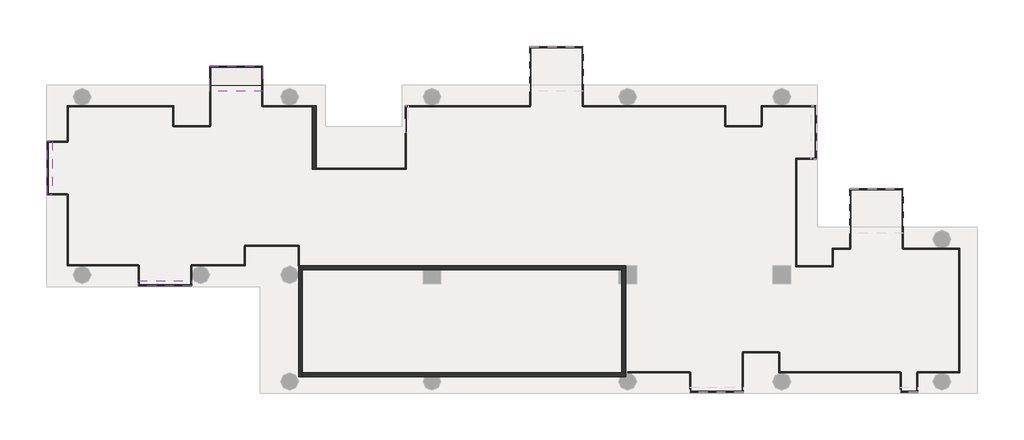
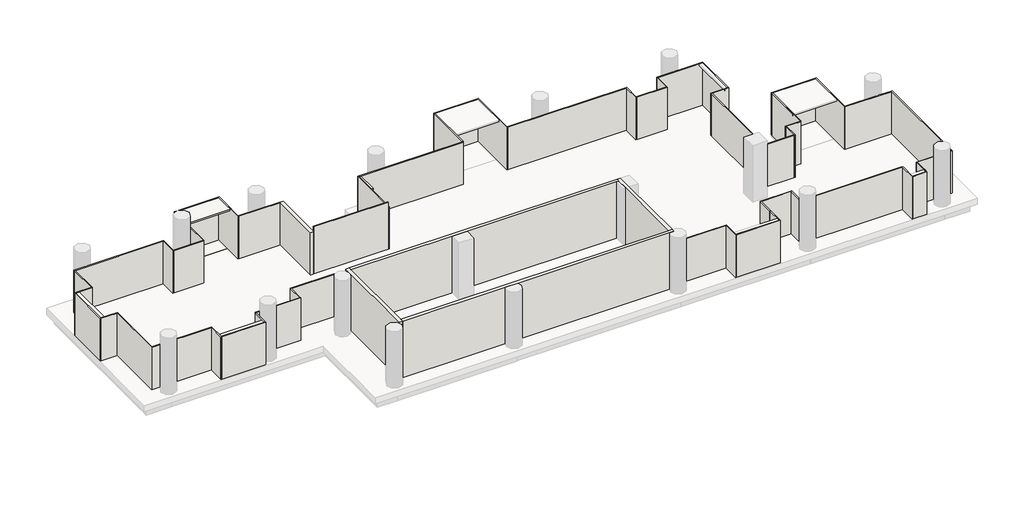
# One storey, part 1 of 2: 59 walls, 8 slabs.
"""IFC4 building model written with IfcOpenShell, lengths in millimetres."""

from ifc_helpers import new_model, si_unit, frame, origin, place, context, project, spatial, polyline, outline, extrude, faceted_brep, element, save

model = new_model("IFC4")

# Units and contexts
model_context = context("Model", 3, world=origin())
ifc_project = project(units=[si_unit("LENGTHUNIT", "METRE", prefix="MILLI")], contexts=[model_context])

# Site, building, storey
site = spatial("IfcSite", under=ifc_project)
building = spatial("IfcBuilding", under=site)
storey = spatial("IfcBuildingStorey", under=building, Name="TW-L 15", Elevation=53199.9999686)

# Slabs
placement = place(None, origin())
element("IfcSlab", 1, ObjectType="AJN-ARC-SLAB-10cm", at=placement, inside=storey, context=model_context, shape_type="SweptSolid", body=[
    extrude(outline(polyline([(111246.9852535, 39900.0), (108546.9852535, 39900.0), (108546.9852535, 40850.0), (111246.9852535, 40850.0), (111246.9852535, 39900.0)])), frame((0.0, 0.0, 53099.9999686), z_axis=(0.0, 0.0, 1.0), x_axis=(1.0, 0.0, 0.0)), (0.0, 0.0, 1.0), 100.0),
])
element("IfcSlab", 2, ObjectType="AJN-ARC-SLAB-10cm", at=placement, inside=storey, context=model_context, shape_type="SweptSolid", body=[
    extrude(outline(polyline([(100600.0, 34350.0), (100347.1743518, 34350.0), (100347.1743518, 37050.0), (100600.0, 37050.0), (100600.0, 34350.0)])), frame((0.0, 0.0, 55799.9999686), z_axis=(0.0, 0.0, 1.0), x_axis=(1.0, 0.0, 0.0)), (0.0, 0.0, 1.0), 100.0),
])
element("IfcSlab", 3, ObjectType="AJN-ARC-SLAB-10cm", at=placement, inside=storey, context=model_context, shape_type="SweptSolid", body=[
    extrude(outline(polyline([(107647.1743518, 29750.0), (104947.1743518, 29750.0), (104947.1743518, 30000.0), (107647.1743518, 30000.0), (107647.1743518, 29750.0)])), frame((0.0, 0.0, 55799.9999686), z_axis=(0.0, 0.0, 1.0), x_axis=(1.0, 0.0, 0.0)), (0.0, 0.0, 1.0), 100.0),
])
element("IfcSlab", 4, ObjectType="AJN-ARC-SLAB-10cm", at=placement, inside=storey, context=model_context, shape_type="SweptSolid", body=[
    extrude(outline(polyline([(111246.9852535, 39600.0), (108546.9852535, 39600.0), (108546.9852535, 40850.0), (111246.9852535, 40850.0), (111246.9852535, 39600.0)])), frame((0.0, 0.0, 55799.9999686), z_axis=(0.0, 0.0, 1.0), x_axis=(1.0, 0.0, 0.0)), (0.0, 0.0, 1.0), 100.0),
])
element("IfcSlab", 5, ObjectType="AJN-ARC-SLAB-10cm", at=placement, inside=storey, context=model_context, shape_type="SweptSolid", body=[
    extrude(outline(polyline([(118600.0, 37500.0), (118450.0, 37500.0), (118450.0, 38850.0), (118600.0, 38850.0), (118600.0, 37500.0)])), frame((0.0, 0.0, 55799.9999686), z_axis=(0.0, 0.0, 1.0), x_axis=(1.0, 0.0, 0.0)), (0.0, 0.0, 1.0), 100.0),
])
element("IfcSlab", 6, ObjectType="AJN-ARC-SLAB-10cm", at=placement, inside=storey, context=model_context, shape_type="SweptSolid", body=[
    extrude(outline(polyline([(118600.0, 37500.0), (118450.0, 37500.0), (118450.0, 38850.0), (118600.0, 38850.0), (118600.0, 37500.0)])), frame((0.0, 0.0, 55799.9999686), z_axis=(0.0, 0.0, 1.0), x_axis=(1.0, 0.0, 0.0)), (0.0, 0.0, 1.0), 100.0),
])
element("IfcSlab", 7, ObjectType="AJN-ARC-SLAB-10cm", at=placement, inside=storey, context=model_context, shape_type="SweptSolid", body=[
    extrude(outline(polyline([(118600.0, 37500.0), (118450.0, 37500.0), (118450.0, 38850.0), (118600.0, 38850.0), (118600.0, 37500.0)])), frame((0.0, 0.0, 55799.9999686), z_axis=(0.0, 0.0, 1.0), x_axis=(1.0, 0.0, 0.0)), (0.0, 0.0, 1.0), 100.0),
])
element("IfcSlab", 8, ObjectType="AJN-ARC-SLAB-10cm", at=placement, inside=storey, context=model_context, shape_type="SweptSolid", body=[
    extrude(outline(polyline([(118600.0, 37500.0), (118450.0, 37500.0), (118450.0, 38850.0), (118600.0, 38850.0), (118600.0, 37500.0)])), frame((0.0, 0.0, 55799.9999686), z_axis=(0.0, 0.0, 1.0), x_axis=(1.0, 0.0, 0.0)), (0.0, 0.0, 1.0), 100.0),
])

# Walls
element("IfcWall", 9, ObjectType="AJN-ARC-CONCRETE WALL-20cm", at=placement, inside=storey, context=model_context, shape_type="Brep", body=[
    faceted_brep([(113050.0, 30750.0, 56799.9999686), (113050.0, 30750.0, 53199.9999686), (113050.0, 25150.0, 53199.9999686), (113050.0, 25150.0, 56799.9999686), (113250.0, 30750.0, 53199.9999686), (113250.0, 30750.0, 56799.9999686), (113250.0, 30550.0, 56799.9999686), (113250.0, 25350.0, 56799.9999686), (113250.0, 25150.0, 56799.9999686), (113250.0, 25150.0, 53199.9999686), (113250.0, 25350.0, 53199.9999686), (113250.0, 30550.0, 53199.9999686), (113097.1743518, 30750.0, 53199.9999686)], [[[0, 1, 2, 3]], [[4, 5, 6, 7, 8, 9, 10, 11]], [[2, 1, 12, 4, 11, 10, 9]], [[0, 3, 8, 7, 6, 5]], [[3, 2, 9, 8]], [[0, 5, 4, 12, 1]]]),
])
element("IfcWall", 10, ObjectType="AJN-ARC-CONCRETE WALL-20cm", at=placement, inside=storey, context=model_context, shape_type="Brep", body=[
    faceted_brep([(113250.0, 25150.0, 53199.9999686), (119425.8342613, 25150.0, 53199.9999686), (120174.1657387, 25150.0, 53199.9999686), (129325.8342613, 25150.0, 53199.9999686), (129600.0, 25150.0, 53199.9999686), (129600.0, 25150.0, 56799.9999686), (129325.8342613, 25150.0, 56799.9999686), (120174.1657387, 25150.0, 56799.9999686), (119425.8342613, 25150.0, 56799.9999686), (113250.0, 25150.0, 56799.9999686), (113250.0, 25350.0, 53199.9999686), (113250.0, 25350.0, 56799.9999686), (129400.0, 25350.0, 56799.9999686), (129600.0, 25350.0, 56799.9999686), (129600.0, 25350.0, 53199.9999686), (129400.0, 25350.0, 53199.9999686), (129600.0, 25338.7482194, 53199.9999686), (129600.0, 25338.7482194, 56799.9999686)], [[[0, 1, 2, 3, 4, 5, 6, 7, 8, 9]], [[10, 11, 12, 13, 14, 15]], [[4, 3, 2, 1, 0, 10, 15, 14, 16]], [[9, 8, 7, 6, 5, 17, 13, 12, 11]], [[5, 4, 16, 14, 13, 17]], [[0, 9, 11, 10]]]),
])
element("IfcWall", 11, ObjectType="AJN-ARC-CONCRETE WALL-20cm", at=placement, inside=storey, context=model_context, shape_type="Brep", body=[
    faceted_brep([(129600.0, 25350.0, 53199.9999686), (129600.0, 29850.0, 53199.9999686), (129600.0, 30750.0, 53199.9999686), (129600.0, 30750.0, 56799.9999686), (129600.0, 29850.0, 56799.9999686), (129600.0, 25350.0, 56799.9999686), (129400.0, 25350.0, 53199.9999686), (129400.0, 25350.0, 56799.9999686), (129400.0, 29850.0, 56799.9999686), (129400.0, 30550.0, 56799.9999686), (129400.0, 30750.0, 56799.9999686), (129400.0, 30750.0, 53199.9999686), (129400.0, 30550.0, 53199.9999686), (129400.0, 29850.0, 53199.9999686)], [[[0, 1, 2, 3, 4, 5]], [[6, 7, 8, 9, 10, 11, 12, 13]], [[2, 1, 0, 6, 13, 12, 11]], [[5, 4, 3, 10, 9, 8, 7]], [[3, 2, 11, 10]], [[0, 5, 7, 6]]]),
])
element("IfcWall", 12, ObjectType="AJN-ARC-CONCRETE WALL-20cm", at=placement, inside=storey, context=model_context, shape_type="Brep", body=[
    faceted_brep([(129400.0, 30750.0, 53199.9999686), (113250.0, 30750.0, 53199.9999686), (113250.0, 30750.0, 56799.9999686), (129400.0, 30750.0, 56799.9999686), (129400.0, 30550.0, 53199.9999686), (129400.0, 30550.0, 56799.9999686), (129250.0, 30550.0, 56799.9999686), (120250.0, 30550.0, 56799.9999686), (119350.0, 30550.0, 56799.9999686), (113250.0, 30550.0, 56799.9999686), (113250.0, 30550.0, 53199.9999686), (119350.0, 30550.0, 53199.9999686), (120250.0, 30550.0, 53199.9999686), (129250.0, 30550.0, 53199.9999686)], [[[0, 1, 2, 3]], [[4, 5, 6, 7, 8, 9, 10, 11, 12, 13]], [[1, 0, 4, 13, 12, 11, 10]], [[3, 2, 9, 8, 7, 6, 5]], [[0, 3, 5, 4]], [[1, 10, 9, 2]]]),
])
element("IfcWall", 13, ObjectType="AJN-ARC-CONCRETE WALL-20cm", at=placement, inside=storey, context=model_context, shape_type="Brep", body=[
    faceted_brep([(113950.0, 35650.0, 53199.9999686), (113950.0, 38850.001152, 53199.9999686), (113950.0, 38850.001152, 55899.9999686), (113950.0, 35650.0, 55899.9999686), (113750.0, 35650.0, 53199.9999686), (113750.0, 35650.0, 55899.9999686), (113750.0, 38800.0010667, 55899.9999686), (113750.0, 38850.0010667, 55899.9999686), (113750.0, 38850.0010667, 53199.9999686), (113750.0, 38800.0010667, 53199.9999686)], [[[0, 1, 2, 3]], [[4, 5, 6, 7, 8, 9]], [[1, 0, 4, 9, 8]], [[3, 2, 7, 6, 5]], [[0, 3, 5, 4]], [[2, 1, 8, 7]]]),
])
element("IfcWall", 14, ObjectType="AJN-ARC-GLASS-50mm", at=placement, inside=storey, context=model_context, shape_type="SweptSolid", body=[
    extrude(outline(polyline([(111246.9852535, 38850.0), (113750.0, 38850.0010667), (113750.0, 38800.0010667), (111246.9852748, 38800.0), (111246.9852535, 38850.0)])), frame((0.0, 0.0, 53199.9999686), z_axis=(0.0, 0.0, 1.0), x_axis=(1.0, 0.0, 0.0)), (0.0, 0.0, 1.0), 2700.0),
])
element("IfcWall", 15, ObjectType="AJN-ARC-GLASS-50mm", at=placement, inside=storey, context=model_context, shape_type="Brep", body=[
    faceted_brep([(111246.9852535, 38824.9999893, 53199.9999686), (111246.9852535, 40850.0, 53199.9999686), (111246.9852535, 40850.0, 55899.9999686), (111246.9852535, 38824.9999893, 55899.9999686), (111196.9852535, 38824.9999893, 53199.9999686), (111196.9852535, 38824.9999893, 55899.9999686), (111196.9852535, 40800.0, 55899.9999686), (111196.9852535, 40850.0, 55899.9999686), (111196.9852535, 40850.0, 53199.9999686), (111196.9852535, 40800.0, 53199.9999686)], [[[0, 1, 2, 3]], [[4, 5, 6, 7, 8, 9]], [[1, 0, 4, 9, 8]], [[3, 2, 7, 6, 5]], [[0, 3, 5, 4]], [[2, 1, 8, 7]]]),
])
element("IfcWall", 16, ObjectType="AJN-ARC-GLASS-50mm", at=placement, inside=storey, context=model_context, shape_type="Brep", body=[
    faceted_brep([(111196.9852535, 40850.0, 53199.9999686), (108546.9852535, 40850.0, 53199.9999686), (108546.9852535, 40850.0, 55899.9999686), (111196.9852535, 40850.0, 55899.9999686), (111196.9852535, 40800.0, 53199.9999686), (111196.9852535, 40800.0, 55899.9999686), (108596.9852535, 40800.0, 55899.9999686), (108546.9852535, 40800.0, 55899.9999686), (108546.9852535, 40800.0, 53199.9999686), (108596.9852535, 40800.0, 53199.9999686)], [[[0, 1, 2, 3]], [[4, 5, 6, 7, 8, 9]], [[1, 0, 4, 9, 8]], [[3, 2, 7, 6, 5]], [[2, 1, 8, 7]], [[0, 3, 5, 4]]]),
])
element("IfcWall", 17, ObjectType="AJN-ARC-GLASS-50mm", at=placement, inside=storey, context=model_context, shape_type="Brep", body=[
    faceted_brep([(108546.9852535, 40800.0, 53199.9999686), (108546.9852535, 39352.0017611, 53199.9999686), (108546.9852535, 39247.9982389, 53199.9999686), (108546.9852535, 37850.0, 53199.9999686), (108546.9852535, 37850.0, 55899.9999686), (108546.9852535, 39247.9982389, 55899.9999686), (108546.9852535, 39352.0017611, 55899.9999686), (108546.9852535, 40800.0, 55899.9999686), (108596.9852535, 40800.0, 53199.9999686), (108596.9852535, 40800.0, 55899.9999686), (108596.9852535, 37850.0, 55899.9999686), (108596.9852535, 37850.0, 53199.9999686)], [[[0, 1, 2, 3, 4, 5, 6, 7]], [[8, 9, 10, 11]], [[3, 2, 1, 0, 8, 11]], [[4, 3, 11, 10]], [[7, 6, 5, 4, 10, 9]], [[0, 7, 9, 8]]]),
])
element("IfcWall", 18, ObjectType="AJN-ARC-GLASS-50mm", at=placement, inside=storey, context=model_context, shape_type="SweptSolid", body=[
    extrude(outline(polyline([(106746.9852535, 37850.0), (108571.9852535, 37850.0), (108571.9852535, 37800.0), (106746.9852535, 37800.0), (106746.9852535, 37850.0)])), frame((0.0, 0.0, 53199.9999686), z_axis=(0.0, 0.0, 1.0), x_axis=(1.0, 0.0, 0.0)), (0.0, 0.0, 1.0), 2700.0),
])
element("IfcWall", 19, ObjectType="AJN-ARC-GLASS-50mm", at=placement, inside=storey, context=model_context, shape_type="Brep", body=[
    faceted_brep([(106746.9852535, 37825.0, 53199.9999686), (106746.9852535, 38850.000144, 53199.9999686), (106746.9852535, 38850.000144, 55899.9999686), (106746.9852535, 37825.0, 55899.9999686), (106696.9852535, 37825.0, 53199.9999686), (106696.9852535, 37825.0, 55899.9999686), (106696.9852535, 38800.0001533, 55899.9999686), (106696.9852535, 38850.0001533, 55899.9999686), (106696.9852535, 38850.0001533, 53199.9999686), (106696.9852535, 38800.0001533, 53199.9999686)], [[[0, 1, 2, 3]], [[4, 5, 6, 7, 8, 9]], [[1, 0, 4, 9, 8]], [[3, 2, 7, 6, 5]], [[0, 3, 5, 4]], [[2, 1, 8, 7]]]),
])
element("IfcWall", 20, ObjectType="AJN-ARC-GLASS-50mm", at=placement, inside=storey, context=model_context, shape_type="Brep", body=[
    faceted_brep([(106696.9852535, 38850.0001533, 53199.9999686), (101347.1743518, 38850.001152, 53199.9999686), (101347.1743518, 38850.001152, 55899.9999686), (106696.9852535, 38850.0001533, 55899.9999686), (106696.9852535, 38800.0001533, 53199.9999686), (106696.9852535, 38800.0001533, 55899.9999686), (101397.1743518, 38800.0011426, 55899.9999686), (101347.1743518, 38800.001152, 55899.9999686), (101347.1743518, 38800.001152, 53199.9999686), (101397.1743518, 38800.0011426, 53199.9999686)], [[[0, 1, 2, 3]], [[4, 5, 6, 7, 8, 9]], [[1, 0, 4, 9, 8]], [[3, 2, 7, 6, 5]], [[2, 1, 8, 7]], [[0, 3, 5, 4]]]),
])
element("IfcWall", 21, ObjectType="AJN-ARC-GLASS-50mm", at=placement, inside=storey, context=model_context, shape_type="SweptSolid", body=[
    extrude(outline(polyline([(101347.1743518, 37050.0), (101347.1743518, 38800.001152), (101397.1743518, 38800.0011426), (101397.1743518, 37050.0), (101347.1743518, 37050.0)])), frame((0.0, 0.0, 53199.9999686), z_axis=(0.0, 0.0, 1.0), x_axis=(1.0, 0.0, 0.0)), (0.0, 0.0, 1.0), 2700.0),
])
element("IfcWall", 22, ObjectType="AJN-ARC-GLASS-50mm", at=placement, inside=storey, context=model_context, shape_type="Brep", body=[
    faceted_brep([(101372.1743518, 37050.0, 53199.9999686), (100347.1743518, 37050.0, 53199.9999686), (100347.1743518, 37050.0, 55899.9999686), (101372.1743518, 37050.0, 55899.9999686), (101372.1743518, 37000.0, 53199.9999686), (101372.1743518, 37000.0, 55899.9999686), (100397.1743518, 37000.0, 55899.9999686), (100347.1743518, 37000.0, 55899.9999686), (100347.1743518, 37000.0, 53199.9999686), (100397.1743518, 37000.0, 53199.9999686)], [[[0, 1, 2, 3]], [[4, 5, 6, 7, 8, 9]], [[1, 0, 4, 9, 8]], [[3, 2, 7, 6, 5]], [[0, 3, 5, 4]], [[2, 1, 8, 7]]]),
])
element("IfcWall", 23, ObjectType="AJN-ARC-GLASS-50mm", at=placement, inside=storey, context=model_context, shape_type="Brep", body=[
    faceted_brep([(100347.1743518, 37000.0, 53199.9999686), (100347.1743518, 34350.0, 53199.9999686), (100347.1743518, 34350.0, 55899.9999686), (100347.1743518, 37000.0, 55899.9999686), (100397.1743518, 37000.0, 53199.9999686), (100397.1743518, 37000.0, 55899.9999686), (100397.1743518, 34400.0, 55899.9999686), (100397.1743518, 34350.0, 55899.9999686), (100397.1743518, 34350.0, 53199.9999686), (100397.1743518, 34400.0, 53199.9999686)], [[[0, 1, 2, 3]], [[4, 5, 6, 7, 8, 9]], [[1, 0, 4, 9, 8]], [[3, 2, 7, 6, 5]], [[2, 1, 8, 7]], [[0, 3, 5, 4]]]),
])
element("IfcWall", 24, ObjectType="AJN-ARC-GLASS-50mm", at=placement, inside=storey, context=model_context, shape_type="SweptSolid", body=[
    extrude(outline(polyline([(101347.1743518, 34350.0), (100397.1743518, 34350.0), (100397.1743518, 34400.0), (101347.1743518, 34400.0), (101347.1743518, 34350.0)])), frame((0.0, 0.0, 53199.9999686), z_axis=(0.0, 0.0, 1.0), x_axis=(1.0, 0.0, 0.0)), (0.0, 0.0, 1.0), 2700.0),
])
element("IfcWall", 25, ObjectType="AJN-ARC-GLASS-50mm", at=placement, inside=storey, context=model_context, shape_type="Brep", body=[
    faceted_brep([(101347.1743518, 34375.0, 53199.9999686), (101347.1743518, 30750.0, 53199.9999686), (101347.1743518, 30750.0, 55899.9999686), (101347.1743518, 34375.0, 55899.9999686), (101397.1743518, 34375.0, 53199.9999686), (101397.1743518, 34375.0, 55899.9999686), (101397.1743518, 30800.0, 55899.9999686), (101397.1743518, 30750.0, 55899.9999686), (101397.1743518, 30750.0, 53199.9999686), (101397.1743518, 30800.0, 53199.9999686)], [[[0, 1, 2, 3]], [[4, 5, 6, 7, 8, 9]], [[1, 0, 4, 9, 8]], [[3, 2, 7, 6, 5]], [[0, 3, 5, 4]], [[2, 1, 8, 7]]]),
])
element("IfcWall", 26, ObjectType="AJN-ARC-GLASS-50mm", at=placement, inside=storey, context=model_context, shape_type="SweptSolid", body=[
    extrude(outline(polyline([(104947.1743518, 30750.0), (101397.1743518, 30750.0), (101397.1743518, 30800.0), (104947.1743518, 30800.0), (104947.1743518, 30750.0)])), frame((0.0, 0.0, 53199.9999686), z_axis=(0.0, 0.0, 1.0), x_axis=(1.0, 0.0, 0.0)), (0.0, 0.0, 1.0), 2700.0),
])
element("IfcWall", 27, ObjectType="AJN-ARC-GLASS-50mm", at=placement, inside=storey, context=model_context, shape_type="Brep", body=[
    faceted_brep([(104947.1743518, 30775.0, 53199.9999686), (104947.1743518, 29750.0, 53199.9999686), (104947.1743518, 29750.0, 55899.9999686), (104947.1743518, 30775.0, 55899.9999686), (104997.1743518, 30775.0, 53199.9999686), (104997.1743518, 30775.0, 55899.9999686), (104997.1743518, 29800.0, 55899.9999686), (104997.1743518, 29750.0, 55899.9999686), (104997.1743518, 29750.0, 53199.9999686), (104997.1743518, 29800.0, 53199.9999686)], [[[0, 1, 2, 3]], [[4, 5, 6, 7, 8, 9]], [[1, 0, 4, 9, 8]], [[3, 2, 7, 6, 5]], [[0, 3, 5, 4]], [[2, 1, 8, 7]]]),
])
element("IfcWall", 28, ObjectType="AJN-ARC-GLASS-50mm", at=placement, inside=storey, context=model_context, shape_type="Brep", body=[
    faceted_brep([(104997.1743518, 29750.0, 53199.9999686), (107647.1743518, 29750.0, 53199.9999686), (107647.1743518, 29750.0, 55899.9999686), (104997.1743518, 29750.0, 55899.9999686), (104997.1743518, 29800.0, 53199.9999686), (104997.1743518, 29800.0, 55899.9999686), (107597.1743518, 29800.0, 55899.9999686), (107647.1743518, 29800.0, 55899.9999686), (107647.1743518, 29800.0, 53199.9999686), (107597.1743518, 29800.0, 53199.9999686)], [[[0, 1, 2, 3]], [[4, 5, 6, 7, 8, 9]], [[1, 0, 4, 9, 8]], [[3, 2, 7, 6, 5]], [[2, 1, 8, 7]], [[0, 3, 5, 4]]]),
])
element("IfcWall", 29, ObjectType="AJN-ARC-GLASS-50mm", at=placement, inside=storey, context=model_context, shape_type="SweptSolid", body=[
    extrude(outline(polyline([(107647.1743518, 30750.0), (107647.1743518, 29800.0), (107597.1743518, 29800.0), (107597.1743518, 30750.0), (107647.1743518, 30750.0)])), frame((0.0, 0.0, 53199.9999686), z_axis=(0.0, 0.0, 1.0), x_axis=(1.0, 0.0, 0.0)), (0.0, 0.0, 1.0), 2700.0),
])
element("IfcWall", 30, ObjectType="AJN-ARC-GLASS-50mm", at=placement, inside=storey, context=model_context, shape_type="Brep", body=[
    faceted_brep([(107622.1743518, 30750.0, 53199.9999686), (110347.1743518, 30750.0, 53199.9999686), (110347.1743518, 30750.0, 55899.9999686), (107622.1743518, 30750.0, 55899.9999686), (107622.1743518, 30800.0, 53199.9999686), (107622.1743518, 30800.0, 55899.9999686), (110297.1743518, 30800.0, 55899.9999686), (110347.1743518, 30800.0, 55899.9999686), (110347.1743518, 30800.0, 53199.9999686), (110297.1743518, 30800.0, 53199.9999686)], [[[0, 1, 2, 3]], [[4, 5, 6, 7, 8, 9]], [[1, 0, 4, 9, 8]], [[3, 2, 7, 6, 5]], [[0, 3, 5, 4]], [[2, 1, 8, 7]]]),
])
element("IfcWall", 31, ObjectType="AJN-ARC-GLASS-50mm", at=placement, inside=storey, context=model_context, shape_type="SweptSolid", body=[
    extrude(outline(polyline([(110347.1743518, 31750.0), (110347.1743518, 30800.0), (110297.1743518, 30800.0), (110297.1743518, 31750.0), (110347.1743518, 31750.0)])), frame((0.0, 0.0, 53199.9999686), z_axis=(0.0, 0.0, 1.0), x_axis=(1.0, 0.0, 0.0)), (0.0, 0.0, 1.0), 2700.0),
])
element("IfcWall", 32, ObjectType="AJN-ARC-GLASS-50mm", at=placement, inside=storey, context=model_context, shape_type="SweptSolid", body=[
    extrude(outline(polyline([(113047.1743518, 31750.0), (110322.1743518, 31750.0), (110322.1743518, 31800.0), (113047.1743518, 31800.0), (113047.1743518, 31750.0)])), frame((0.0, 0.0, 53199.9999686), z_axis=(0.0, 0.0, 1.0), x_axis=(1.0, 0.0, 0.0)), (0.0, 0.0, 1.0), 2700.0),
])
element("IfcWall", 33, ObjectType="AJN-ARC-GLASS-50mm", at=placement, inside=storey, context=model_context, shape_type="Brep", body=[
    faceted_brep([(113047.1743518, 31775.0, 53199.9999686), (113047.1743518, 30750.0, 53199.9999686), (113047.1743518, 30750.0, 55899.9999686), (113047.1743518, 31775.0, 55899.9999686), (113097.1743518, 31775.0, 53199.9999686), (113097.1743518, 31775.0, 55899.9999686), (113097.1743518, 30750.0, 55899.9999686), (113097.1743518, 30750.0, 53199.9999686), (113050.0, 30750.0, 53199.9999686)], [[[0, 1, 2, 3]], [[4, 5, 6, 7]], [[1, 0, 4, 7, 8]], [[3, 2, 6, 5]], [[0, 3, 5, 4]], [[2, 1, 8, 7, 6]]]),
])
element("IfcWall", 34, ObjectType="AJN-ARC-GLASS-50mm", at=placement, inside=storey, context=model_context, shape_type="Brep", body=[
    faceted_brep([(138250.0, 30700.0, 53199.9999686), (138250.0, 30750.0, 53199.9999686), (138250.0, 36150.0, 53199.9999686), (138250.0, 36150.0, 55899.9999686), (138250.0, 30750.0, 55899.9999686), (138250.0, 30700.0, 55899.9999686), (138200.0, 30700.0, 53199.9999686), (138200.0, 30700.0, 55899.9999686), (138200.0, 36150.0, 55899.9999686), (138200.0, 36150.0, 53199.9999686)], [[[0, 1, 2, 3, 4, 5]], [[6, 7, 8, 9]], [[2, 1, 0, 6, 9]], [[5, 4, 3, 8, 7]], [[0, 5, 7, 6]], [[3, 2, 9, 8]]]),
])
element("IfcWall", 35, ObjectType="AJN-ARC-GLASS-50mm", at=placement, inside=storey, context=model_context, shape_type="Brep", body=[
    faceted_brep([(138200.0, 36150.0, 53199.9999686), (138250.0, 36150.0, 53199.9999686), (139250.0, 36150.0, 53199.9999686), (139250.0, 36150.0, 55899.9999686), (138250.0, 36150.0, 55899.9999686), (138200.0, 36150.0, 55899.9999686), (138200.0, 36200.0, 53199.9999686), (138200.0, 36200.0, 55899.9999686), (139200.0, 36200.0, 55899.9999686), (139250.0, 36200.0, 55899.9999686), (139250.0, 36200.0, 53199.9999686), (139200.0, 36200.0, 53199.9999686)], [[[0, 1, 2, 3, 4, 5]], [[6, 7, 8, 9, 10, 11]], [[2, 1, 0, 6, 11, 10]], [[5, 4, 3, 9, 8, 7]], [[3, 2, 10, 9]], [[0, 5, 7, 6]]]),
])
element("IfcWall", 36, ObjectType="AJN-ARC-GLASS-50mm", at=placement, inside=storey, context=model_context, shape_type="Brep", body=[
    faceted_brep([(139250.0, 36200.0, 53199.9999686), (139250.0, 38850.0, 53199.9999686), (139250.0, 38850.0, 55899.9999686), (139250.0, 36200.0, 55899.9999686), (139200.0, 36200.0, 53199.9999686), (139200.0, 36200.0, 55899.9999686), (139200.0, 38800.0, 55899.9999686), (139200.0, 38850.0, 55899.9999686), (139200.0, 38850.0, 53199.9999686), (139200.0, 38800.0, 53199.9999686)], [[[0, 1, 2, 3]], [[4, 5, 6, 7, 8, 9]], [[1, 0, 4, 9, 8]], [[3, 2, 7, 6, 5]], [[2, 1, 8, 7]], [[0, 3, 5, 4]]]),
])
element("IfcWall", 37, ObjectType="AJN-ARC-GLASS-50mm", at=placement, inside=storey, context=model_context, shape_type="Brep", body=[
    faceted_brep([(139200.0, 38850.0, 53199.9999686), (136458.039324, 38850.0, 53199.9999686), (136458.039324, 38850.0, 55899.9999686), (139200.0, 38850.0, 55899.9999686), (139200.0, 38800.0, 53199.9999686), (139200.0, 38800.0, 55899.9999686), (136508.039324, 38800.0, 55899.9999686), (136458.039324, 38800.0, 55899.9999686), (136458.039324, 38800.0, 53199.9999686), (136508.039324, 38800.0, 53199.9999686)], [[[0, 1, 2, 3]], [[4, 5, 6, 7, 8, 9]], [[1, 0, 4, 9, 8]], [[3, 2, 7, 6, 5]], [[2, 1, 8, 7]], [[0, 3, 5, 4]]]),
])
element("IfcWall", 38, ObjectType="AJN-ARC-GLASS-50mm", at=placement, inside=storey, context=model_context, shape_type="SweptSolid", body=[
    extrude(outline(polyline([(136458.039324, 37850.0), (136458.039324, 38800.0), (136508.039324, 38800.0), (136508.039324, 37850.0), (136458.039324, 37850.0)])), frame((0.0, 0.0, 53199.9999686), z_axis=(0.0, 0.0, 1.0), x_axis=(1.0, 0.0, 0.0)), (0.0, 0.0, 1.0), 2700.0),
])
element("IfcWall", 39, ObjectType="AJN-ARC-GLASS-50mm", at=placement, inside=storey, context=model_context, shape_type="SweptSolid", body=[
    extrude(outline(polyline([(134658.039324, 37850.0), (136483.039324, 37850.0), (136483.039324, 37800.0), (134658.039324, 37800.0), (134658.039324, 37850.0)])), frame((0.0, 0.0, 53199.9999686), z_axis=(0.0, 0.0, 1.0), x_axis=(1.0, 0.0, 0.0)), (0.0, 0.0, 1.0), 2700.0),
])
element("IfcWall", 40, ObjectType="AJN-ARC-GLASS-50mm", at=placement, inside=storey, context=model_context, shape_type="Brep", body=[
    faceted_brep([(134658.039324, 37825.0, 53199.9999686), (134658.039324, 38850.0, 53199.9999686), (134658.039324, 38850.0, 55899.9999686), (134658.039324, 37825.0, 55899.9999686), (134608.039324, 37825.0, 53199.9999686), (134608.039324, 37825.0, 55899.9999686), (134608.039324, 38800.0, 55899.9999686), (134608.039324, 38850.0, 55899.9999686), (134608.039324, 38850.0, 53199.9999686), (134608.039324, 38800.0, 53199.9999686)], [[[0, 1, 2, 3]], [[4, 5, 6, 7, 8, 9]], [[1, 0, 4, 9, 8]], [[3, 2, 7, 6, 5]], [[0, 3, 5, 4]], [[2, 1, 8, 7]]]),
])
element("IfcWall", 41, ObjectType="AJN-ARC-GLASS-50mm", at=placement, inside=storey, context=model_context, shape_type="SweptSolid", body=[
    extrude(outline(polyline([(127458.039324, 38850.0), (134608.039324, 38850.0), (134608.039324, 38800.0), (127458.039324, 38800.0), (127458.039324, 38850.0)])), frame((0.0, 0.0, 53199.9999686), z_axis=(0.0, 0.0, 1.0), x_axis=(1.0, 0.0, 0.0)), (0.0, 0.0, 1.0), 2700.0),
])
element("IfcWall", 42, ObjectType="AJN-ARC-GLASS-50mm", at=placement, inside=storey, context=model_context, shape_type="Brep", body=[
    faceted_brep([(127458.039324, 38825.0, 53199.9999686), (127458.039324, 41850.0, 53199.9999686), (127458.039324, 41850.0, 55899.9999686), (127458.039324, 38825.0, 55899.9999686), (127408.039324, 38825.0, 53199.9999686), (127408.039324, 38825.0, 55899.9999686), (127408.039324, 41800.0, 55899.9999686), (127408.039324, 41850.0, 55899.9999686), (127408.039324, 41850.0, 53199.9999686), (127408.039324, 41800.0, 53199.9999686)], [[[0, 1, 2, 3]], [[4, 5, 6, 7, 8, 9]], [[1, 0, 4, 9, 8]], [[3, 2, 7, 6, 5]], [[0, 3, 5, 4]], [[2, 1, 8, 7]]]),
])
element("IfcWall", 43, ObjectType="AJN-ARC-GLASS-50mm", at=placement, inside=storey, context=model_context, shape_type="Brep", body=[
    faceted_brep([(127408.039324, 41850.0, 53199.9999686), (124758.039324, 41850.0, 53199.9999686), (124758.039324, 41850.0, 55899.9999686), (127408.039324, 41850.0, 55899.9999686), (127408.039324, 41800.0, 53199.9999686), (127408.039324, 41800.0, 55899.9999686), (124808.039324, 41800.0, 55899.9999686), (124758.039324, 41800.0, 55899.9999686), (124758.039324, 41800.0, 53199.9999686), (124808.039324, 41800.0, 53199.9999686)], [[[0, 1, 2, 3]], [[4, 5, 6, 7, 8, 9]], [[1, 0, 4, 9, 8]], [[3, 2, 7, 6, 5]], [[2, 1, 8, 7]], [[0, 3, 5, 4]]]),
])
element("IfcWall", 44, ObjectType="AJN-ARC-GLASS-50mm", at=placement, inside=storey, context=model_context, shape_type="SweptSolid", body=[
    extrude(outline(polyline([(124758.039324, 38850.0), (124758.039324, 41800.0), (124808.039324, 41800.0), (124808.039324, 38850.0), (124758.039324, 38850.0)])), frame((0.0, 0.0, 53199.9999686), z_axis=(0.0, 0.0, 1.0), x_axis=(1.0, 0.0, 0.0)), (0.0, 0.0, 1.0), 2700.0),
])
element("IfcWall", 45, ObjectType="AJN-ARC-GLASS-50mm", at=placement, inside=storey, context=model_context, shape_type="Brep", body=[
    faceted_brep([(124783.039324, 38850.0, 53199.9999686), (118450.0, 38850.0, 53199.9999686), (118450.0, 38850.0, 55899.9999686), (124783.039324, 38850.0, 55899.9999686), (124783.039324, 38800.0, 53199.9999686), (124783.039324, 38800.0, 55899.9999686), (118500.0, 38800.0, 55899.9999686), (118450.0, 38800.0, 55899.9999686), (118450.0, 38800.0, 53199.9999686), (118500.0, 38800.0, 53199.9999686)], [[[0, 1, 2, 3]], [[4, 5, 6, 7, 8, 9]], [[1, 0, 4, 9, 8]], [[3, 2, 7, 6, 5]], [[0, 3, 5, 4]], [[2, 1, 8, 7]]]),
])
element("IfcWall", 46, ObjectType="AJN-ARC-GLASS-50mm", at=placement, inside=storey, context=model_context, shape_type="SweptSolid", body=[
    extrude(outline(polyline([(132850.2925687, 25350.0), (129714.068817, 25350.0), (129714.068817, 25400.0), (132850.2925687, 25400.0), (132850.2925687, 25350.0)])), frame((0.0, 0.0, 53199.9999686), z_axis=(0.0, 0.0, 1.0), x_axis=(1.0, 0.0, 0.0)), (0.0, 0.0, 1.0), 2700.0),
])
element("IfcWall", 47, ObjectType="AJN-ARC-GLASS-50mm", at=placement, inside=storey, context=model_context, shape_type="Brep", body=[
    faceted_brep([(132850.2925687, 25375.0, 53199.9999686), (132850.2925687, 24350.0, 53199.9999686), (132850.2925687, 24350.0, 55899.9999686), (132850.2925687, 25375.0, 55899.9999686), (132900.2925687, 25375.0, 53199.9999686), (132900.2925687, 25375.0, 55899.9999686), (132900.2925687, 24400.0, 55899.9999686), (132900.2925687, 24350.0, 55899.9999686), (132900.2925687, 24350.0, 53199.9999686), (132900.2925687, 24400.0, 53199.9999686)], [[[0, 1, 2, 3]], [[4, 5, 6, 7, 8, 9]], [[1, 0, 4, 9, 8]], [[3, 2, 7, 6, 5]], [[0, 3, 5, 4]], [[2, 1, 8, 7]]]),
])
element("IfcWall", 48, ObjectType="AJN-ARC-GLASS-50mm", at=placement, inside=storey, context=model_context, shape_type="Brep", body=[
    faceted_brep([(132900.2925687, 24350.0, 53199.9999686), (135550.2925687, 24350.0, 53199.9999686), (135550.2925687, 24350.0, 55899.9999686), (132900.2925687, 24350.0, 55899.9999686), (132900.2925687, 24400.0, 53199.9999686), (132900.2925687, 24400.0, 55899.9999686), (135500.2925687, 24400.0, 55899.9999686), (135550.2925687, 24400.0, 55899.9999686), (135550.2925687, 24400.0, 53199.9999686), (135500.2925687, 24400.0, 53199.9999686)], [[[0, 1, 2, 3]], [[4, 5, 6, 7, 8, 9]], [[1, 0, 4, 9, 8]], [[3, 2, 7, 6, 5]], [[2, 1, 8, 7]], [[0, 3, 5, 4]]]),
])
element("IfcWall", 49, ObjectType="AJN-ARC-GLASS-50mm", at=placement, inside=storey, context=model_context, shape_type="SweptSolid", body=[
    extrude(outline(polyline([(135550.2925687, 25350.0), (135550.2925687, 24400.0), (135500.2925687, 24400.0), (135500.2925687, 25350.0), (135550.2925687, 25350.0)])), frame((0.0, 0.0, 53199.9999686), z_axis=(0.0, 0.0, 1.0), x_axis=(1.0, 0.0, 0.0)), (0.0, 0.0, 1.0), 2700.0),
])
element("IfcWall", 50, ObjectType="AJN-ARC-GLASS-50mm", at=placement, inside=storey, context=model_context, shape_type="SweptSolid", body=[
    extrude(outline(polyline([(135550.2925687, 26350.0), (135550.2925687, 25350.0), (135500.2925687, 25350.0), (135500.2925687, 26350.0), (135550.2925687, 26350.0)])), frame((0.0, 0.0, 53199.9999686), z_axis=(0.0, 0.0, 1.0), x_axis=(1.0, 0.0, 0.0)), (0.0, 0.0, 1.0), 2700.0),
])
element("IfcWall", 51, ObjectType="AJN-ARC-GLASS-50mm", at=placement, inside=storey, context=model_context, shape_type="SweptSolid", body=[
    extrude(outline(polyline([(137350.2925687, 26350.0), (135525.2925687, 26350.0), (135525.2925687, 26400.0), (137350.2925687, 26400.0), (137350.2925687, 26350.0)])), frame((0.0, 0.0, 53199.9999686), z_axis=(0.0, 0.0, 1.0), x_axis=(1.0, 0.0, 0.0)), (0.0, 0.0, 1.0), 2700.0),
])
element("IfcWall", 52, ObjectType="AJN-ARC-GLASS-50mm", at=placement, inside=storey, context=model_context, shape_type="Brep", body=[
    faceted_brep([(137350.2925687, 26375.0, 53199.9999686), (137350.2925687, 25350.0, 53199.9999686), (137350.2925687, 25350.0, 55899.9999686), (137350.2925687, 26375.0, 55899.9999686), (137400.2925687, 26375.0, 53199.9999686), (137400.2925687, 26375.0, 55899.9999686), (137400.2925687, 25400.0, 55899.9999686), (137400.2925687, 25350.0, 55899.9999686), (137400.2925687, 25350.0, 53199.9999686), (137400.2925687, 25400.0, 53199.9999686)], [[[0, 1, 2, 3]], [[4, 5, 6, 7, 8, 9]], [[1, 0, 4, 9, 8]], [[3, 2, 7, 6, 5]], [[0, 3, 5, 4]], [[2, 1, 8, 7]]]),
])
element("IfcWall", 53, ObjectType="AJN-ARC-GLASS-50mm", at=placement, inside=storey, context=model_context, shape_type="SweptSolid", body=[
    extrude(outline(polyline([(143486.0660246, 25350.0), (137400.2925687, 25350.0), (137400.2925687, 25400.0), (143486.0660246, 25400.0), (143486.0660246, 25350.0)])), frame((0.0, 0.0, 53199.9999686), z_axis=(0.0, 0.0, 1.0), x_axis=(1.0, 0.0, 0.0)), (0.0, 0.0, 1.0), 2700.0),
])
element("IfcWall", 54, ObjectType="AJN-ARC-GLASS-50mm", at=placement, inside=storey, context=model_context, shape_type="Brep", body=[
    faceted_brep([(143486.0660246, 25375.0, 53199.9999686), (143486.0660246, 24350.0, 53199.9999686), (143486.0660246, 24350.0, 55899.9999686), (143486.0660246, 25375.0, 55899.9999686), (143536.0660246, 25375.0, 53199.9999686), (143536.0660246, 25375.0, 55899.9999686), (143536.0660246, 24400.0, 55899.9999686), (143536.0660246, 24350.0, 55899.9999686), (143536.0660246, 24350.0, 53199.9999686), (143536.0660246, 24400.0, 53199.9999686)], [[[0, 1, 2, 3]], [[4, 5, 6, 7, 8, 9]], [[1, 0, 4, 9, 8]], [[3, 2, 7, 6, 5]], [[0, 3, 5, 4]], [[2, 1, 8, 7]]]),
])
element("IfcWall", 55, ObjectType="AJN-ARC-GLASS-50mm", at=placement, inside=storey, context=model_context, shape_type="Brep", body=[
    faceted_brep([(143536.0660246, 24350.0, 53199.9999686), (144386.0660246, 24350.0, 53199.9999686), (144386.0660246, 24350.0, 55899.9999686), (143536.0660246, 24350.0, 55899.9999686), (143536.0660246, 24400.0, 53199.9999686), (143536.0660246, 24400.0, 55899.9999686), (144336.0660246, 24400.0, 55899.9999686), (144386.0660246, 24400.0, 55899.9999686), (144386.0660246, 24400.0, 53199.9999686), (144336.0660246, 24400.0, 53199.9999686)], [[[0, 1, 2, 3]], [[4, 5, 6, 7, 8, 9]], [[1, 0, 4, 9, 8]], [[3, 2, 7, 6, 5]], [[2, 1, 8, 7]], [[0, 3, 5, 4]]]),
])
element("IfcWall", 56, ObjectType="AJN-ARC-GLASS-50mm", at=placement, inside=storey, context=model_context, shape_type="SweptSolid", body=[
    extrude(outline(polyline([(144386.0660246, 25350.0), (144386.0660246, 24400.0), (144336.0660246, 24400.0), (144336.0660246, 25350.0), (144386.0660246, 25350.0)])), frame((0.0, 0.0, 53199.9999686), z_axis=(0.0, 0.0, 1.0), x_axis=(1.0, 0.0, 0.0)), (0.0, 0.0, 1.0), 2700.0),
])
element("IfcWall", 57, ObjectType="AJN-ARC-GLASS-50mm", at=placement, inside=storey, context=model_context, shape_type="Brep", body=[
    faceted_brep([(144361.0660246, 25350.0, 53199.9999686), (146497.681474, 25350.0, 53199.9999686), (146497.681474, 25350.0, 55899.9999686), (144361.0660246, 25350.0, 55899.9999686), (144361.0660246, 25400.0, 53199.9999686), (144361.0660246, 25400.0, 55899.9999686), (146447.681474, 25400.0, 55899.9999686), (146497.681474, 25400.0, 55899.9999686), (146497.681474, 25400.0, 53199.9999686), (146447.681474, 25400.0, 53199.9999686)], [[[0, 1, 2, 3]], [[4, 5, 6, 7, 8, 9]], [[1, 0, 4, 9, 8]], [[3, 2, 7, 6, 5]], [[0, 3, 5, 4]], [[2, 1, 8, 7]]]),
])
element("IfcWall", 58, ObjectType="AJN-ARC-GLASS-50mm", at=placement, inside=storey, context=model_context, shape_type="Brep", body=[
    faceted_brep([(146497.681474, 25400.0, 53199.9999686), (146497.681474, 31651.6593424, 53199.9999686), (146497.681474, 31651.6593424, 55899.9999686), (146497.681474, 25400.0, 55899.9999686), (146447.681474, 25400.0, 53199.9999686), (146447.681474, 25400.0, 55899.9999686), (146447.681474, 31601.6593424, 55899.9999686), (146447.681474, 31651.6593424, 55899.9999686), (146447.681474, 31651.6593424, 53199.9999686), (146447.681474, 31601.6593424, 53199.9999686)], [[[0, 1, 2, 3]], [[4, 5, 6, 7, 8, 9]], [[1, 0, 4, 9, 8]], [[3, 2, 7, 6, 5]], [[2, 1, 8, 7]], [[0, 3, 5, 4]]]),
])
element("IfcWall", 59, ObjectType="AJN-ARC-GLASS-50mm", at=placement, inside=storey, context=model_context, shape_type="Brep", body=[
    faceted_brep([(146447.681474, 31651.6593424, 53199.9999686), (145638.6089983, 31651.6593424, 53199.9999686), (145561.3910017, 31651.6593424, 53199.9999686), (143650.0, 31651.6593424, 53199.9999686), (143650.0, 31651.6593424, 55899.9999686), (145561.3910017, 31651.6593424, 55899.9999686), (145638.6089983, 31651.6593424, 55899.9999686), (146447.681474, 31651.6593424, 55899.9999686), (146447.681474, 31601.6593424, 53199.9999686), (146447.681474, 31601.6593424, 55899.9999686), (143650.0, 31601.6593424, 55899.9999686), (143650.0, 31601.6593424, 53199.9999686)], [[[0, 1, 2, 3, 4, 5, 6, 7]], [[8, 9, 10, 11]], [[3, 2, 1, 0, 8, 11]], [[4, 3, 11, 10]], [[7, 6, 5, 4, 10, 9]], [[0, 7, 9, 8]]]),
])
element("IfcWall", 60, ObjectType="AJN-ARC-GLASS-50mm", at=placement, inside=storey, context=model_context, shape_type="Brep", body=[
    faceted_brep([(143650.0, 31626.6593424, 53199.9999686), (143650.0, 34651.6593424, 53199.9999686), (143650.0, 34651.6593424, 55899.9999686), (143650.0, 31626.6593424, 55899.9999686), (143600.0, 31626.6593424, 53199.9999686), (143600.0, 31626.6593424, 55899.9999686), (143600.0, 34601.6593424, 55899.9999686), (143600.0, 34651.6593424, 55899.9999686), (143600.0, 34651.6593424, 53199.9999686), (143600.0, 34601.6593424, 53199.9999686)], [[[0, 1, 2, 3]], [[4, 5, 6, 7, 8, 9]], [[1, 0, 4, 9, 8]], [[3, 2, 7, 6, 5]], [[0, 3, 5, 4]], [[2, 1, 8, 7]]]),
])
element("IfcWall", 61, ObjectType="AJN-ARC-GLASS-50mm", at=placement, inside=storey, context=model_context, shape_type="Brep", body=[
    faceted_brep([(143600.0, 34651.6593424, 53199.9999686), (140950.0, 34651.6593424, 53199.9999686), (140950.0, 34651.6593424, 55899.9999686), (143600.0, 34651.6593424, 55899.9999686), (143600.0, 34601.6593424, 53199.9999686), (143600.0, 34601.6593424, 55899.9999686), (141000.0, 34601.6593424, 55899.9999686), (140950.0, 34601.6593424, 55899.9999686), (140950.0, 34601.6593424, 53199.9999686), (141000.0, 34601.6593424, 53199.9999686)], [[[0, 1, 2, 3]], [[4, 5, 6, 7, 8, 9]], [[1, 0, 4, 9, 8]], [[3, 2, 7, 6, 5]], [[2, 1, 8, 7]], [[0, 3, 5, 4]]]),
])
element("IfcWall", 62, ObjectType="AJN-ARC-GLASS-50mm", at=placement, inside=storey, context=model_context, shape_type="SweptSolid", body=[
    extrude(outline(polyline([(140950.0, 31651.6593424), (140950.0, 34601.6593424), (141000.0, 34601.6593424), (141000.0, 31651.6593424), (140950.0, 31651.6593424)])), frame((0.0, 0.0, 53199.9999686), z_axis=(0.0, 0.0, 1.0), x_axis=(1.0, 0.0, 0.0)), (0.0, 0.0, 1.0), 2700.0),
])
element("IfcWall", 63, ObjectType="AJN-ARC-GLASS-50mm", at=placement, inside=storey, context=model_context, shape_type="Brep", body=[
    faceted_brep([(140975.0, 31651.6593424, 53199.9999686), (140050.0, 31651.6593424, 53199.9999686), (140050.0, 31651.6593424, 55899.9999686), (140975.0, 31651.6593424, 55899.9999686), (140975.0, 31601.6593424, 53199.9999686), (140975.0, 31601.6593424, 55899.9999686), (140100.0, 31601.6593424, 55899.9999686), (140050.0, 31601.6593424, 55899.9999686), (140050.0, 31601.6593424, 53199.9999686), (140100.0, 31601.6593424, 53199.9999686)], [[[0, 1, 2, 3]], [[4, 5, 6, 7, 8, 9]], [[1, 0, 4, 9, 8]], [[3, 2, 7, 6, 5]], [[0, 3, 5, 4]], [[2, 1, 8, 7]]]),
])
element("IfcWall", 64, ObjectType="AJN-ARC-GLASS-50mm", at=placement, inside=storey, context=model_context, shape_type="Brep", body=[
    faceted_brep([(140050.0, 31601.6593424, 53199.9999686), (140050.0, 30750.0, 53199.9999686), (140050.0, 30700.0, 53199.9999686), (140050.0, 30700.0, 55899.9999686), (140050.0, 30750.0, 55899.9999686), (140050.0, 31601.6593424, 55899.9999686), (140100.0, 31601.6593424, 53199.9999686), (140100.0, 31601.6593424, 55899.9999686), (140100.0, 30700.0, 55899.9999686), (140100.0, 30700.0, 53199.9999686)], [[[0, 1, 2, 3, 4, 5]], [[6, 7, 8, 9]], [[2, 1, 0, 6, 9]], [[5, 4, 3, 8, 7]], [[0, 5, 7, 6]], [[3, 2, 9, 8]]]),
])
element("IfcWall", 65, ObjectType="AJN-ARC-GLASS-50mm", at=placement, inside=storey, context=model_context, shape_type="SweptSolid", body=[
    extrude(outline(polyline([(138250.0, 30750.0), (140050.0, 30750.0), (140050.0, 30700.0), (138250.0, 30700.0), (138250.0, 30750.0)])), frame((0.0, 0.0, 53199.9999686), z_axis=(0.0, 0.0, 1.0), x_axis=(1.0, 0.0, 0.0)), (0.0, 0.0, 1.0), 2700.0),
])
element("IfcWall", 66, ObjectType="AJN-ARC-GLASS-50mm", at=placement, inside=storey, context=model_context, shape_type="SweptSolid", body=[
    extrude(outline(polyline([(118450.0, 35650.0), (118450.0, 38800.0), (118500.0, 38800.0), (118500.0, 35650.0), (118450.0, 35650.0)])), frame((0.0, 0.0, 53199.9999686), z_axis=(0.0, 0.0, 1.0), x_axis=(1.0, 0.0, 0.0)), (0.0, 0.0, 1.0), 2700.0),
])
element("IfcWall", 67, ObjectType="AJN-ARC-GLASS-50mm", at=placement, inside=storey, context=model_context, shape_type="SweptSolid", body=[
    extrude(outline(polyline([(118450.0, 35650.0), (113950.0, 35650.0), (113950.0, 35700.0), (118450.0, 35700.0), (118450.0, 35650.0)])), frame((0.0, 0.0, 53199.9999686), z_axis=(0.0, 0.0, 1.0), x_axis=(1.0, 0.0, 0.0)), (0.0, 0.0, 1.0), 3000.0),
])

save(model, "model.ifc")
